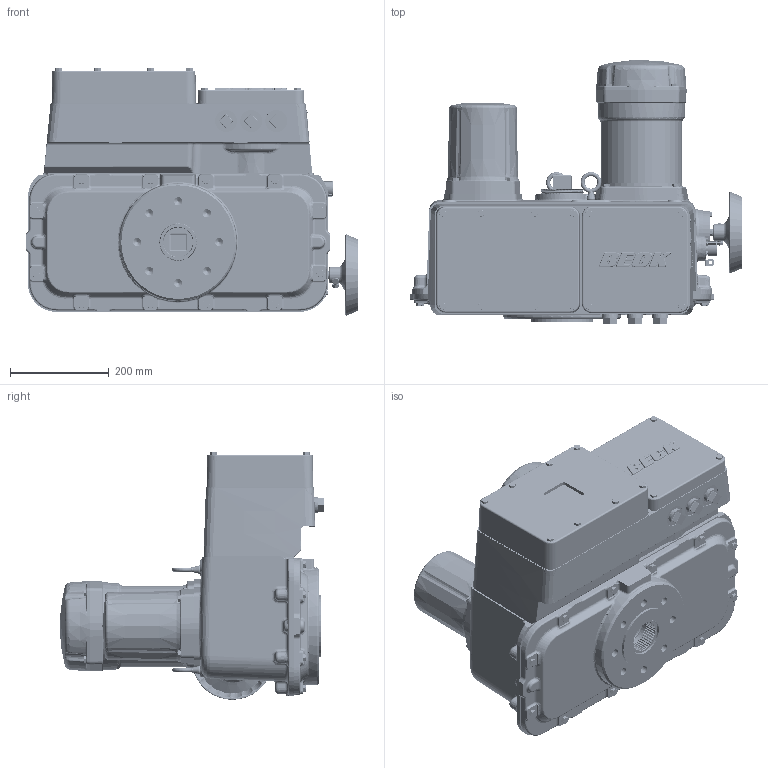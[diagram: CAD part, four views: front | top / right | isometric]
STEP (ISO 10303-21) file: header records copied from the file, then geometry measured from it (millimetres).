
FILE_DESCRIPTION (( 'STEP AP214' ), '1' );
FILE_NAME ('88-100 Actuator Shell (47-8810-00).STEP', '2026-05-13T12:26:18', ( '' ), ( '' ), 'SwSTEP 2.0', 'SolidWorks 2022', '' );
FILE_SCHEMA (( 'AUTOMOTIVE_DESIGN' ));
Length unit declared in the file: inch
Products named in the file (1): 88-100 Actuator Shell (47-8810-00)
Bounding box: 672.16 x 534.27 x 501.49 mm (x, y, z)
Volume: 21569114.7 mm3; surface area: 3754777.7 mm2
Topology: 98 solids, 98 shells, 13746 faces, 34658 edges, 21717 vertices
Faces by surface type: plane 5914, bspline 4052, cylinder 2094, cone 1032, torus 510, sphere 144
Full cylindrical faces by diameter (mm): 0.915 x1, 1.016 x1, 1.524 x8, 1.829 x1, 1.93 x1, 2.261 x1, 2.388 x1, 2.522 x1, 2.794 x1, 3.048 x8, 3.175 x10, 3.226 x1, 3.454 x10, 3.912 x2, 4.039 x22, 4.064 x4, 4.166 x22, 4.47 x1, 4.496 x1, 4.75 x10, 4.826 x4, 4.978 x1, 5 x6, 5.004 x1, 5.105 x17, 5.334 x5, 5.613 x6, 6.337 x2, 6.35 x7, 6.358 x2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
Entity records: 739552 total; most frequent: CARTESIAN_POINT 392782, ORIENTED_EDGE 65732, DIRECTION 49239, EDGE_CURVE 32866, VERTEX_POINT 21397, VECTOR 16951, LINE 16951, AXIS2_PLACEMENT_3D 16144
